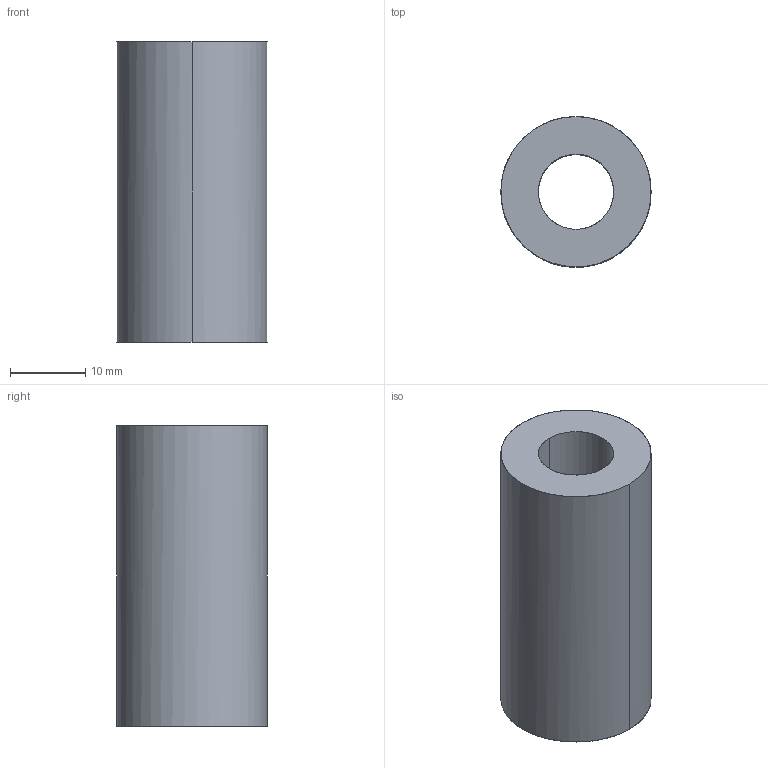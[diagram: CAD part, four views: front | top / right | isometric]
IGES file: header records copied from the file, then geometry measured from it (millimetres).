
Global section: file name: E:\UnigraphicsGraphicData\MISUMI_PRESS-PARTS\IGES\3d_swv20-40_00756_r00.igs; native system: NX V5.0; preprocessor: UGS NX IGES V5.0; author: MISUMI; date: 20110105.163300; units: millimetre
Bounding box: 20 x 20 x 40 mm (x, y, z)
Surface area: 4242.7 mm2 (no closed solid volume)
Topology: 0 solids, 0 shells, 6 faces, 48 edges, 48 vertices
Faces by surface type: bspline 6
